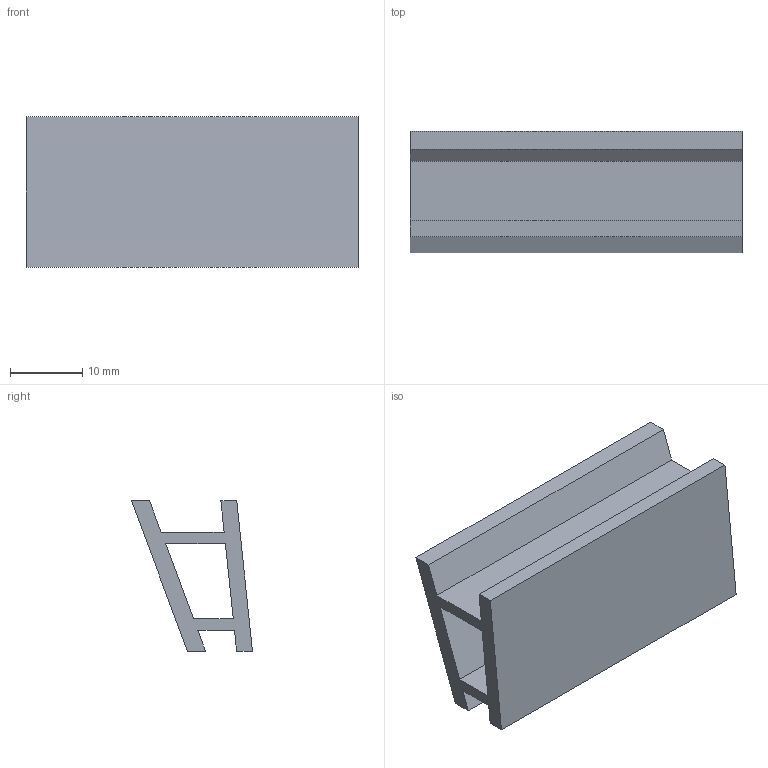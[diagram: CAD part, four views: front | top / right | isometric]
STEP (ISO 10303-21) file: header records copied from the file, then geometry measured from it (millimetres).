
FILE_DESCRIPTION(('Open CASCADE Model'),'2;1');
FILE_NAME('Open CASCADE Shape Model','2026-10-15T18:58:36',('Author'),( 'Open CASCADE'),'Open CASCADE STEP processor 7.9','Open CASCADE 7.9' ,'Unknown');
FILE_SCHEMA(('AUTOMOTIVE_DESIGN { 1 0 10303 214 1 1 1 1 }'));
Length unit declared in the file: millimetre
Products named in the file (1): Open CASCADE STEP translator 7.9 27
Bounding box: 46 x 16.77 x 20.83 mm (x, y, z)
Volume: 5518.7 mm3; surface area: 5608.1 mm2
Topology: 1 solids, 1 shells, 18 faces, 48 edges, 32 vertices
Faces by surface type: plane 18
Entity records: 1190 total; most frequent: CARTESIAN_POINT 195, DIRECTION 182, LINE 144, VECTOR 144, ORIENTED_EDGE 96, PCURVE 96, DEFINITIONAL_REPRESENTATION 96, EDGE_CURVE 48
